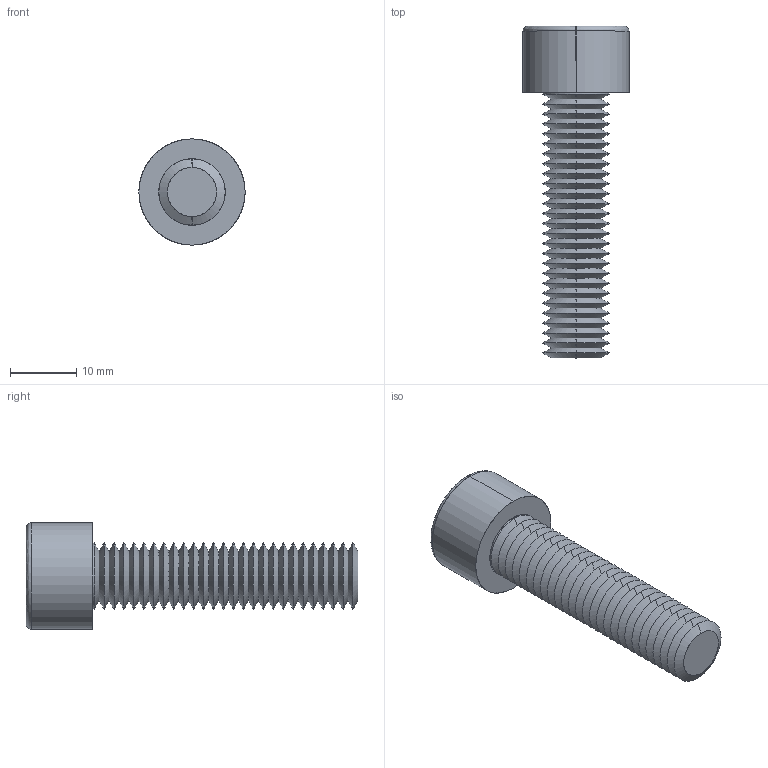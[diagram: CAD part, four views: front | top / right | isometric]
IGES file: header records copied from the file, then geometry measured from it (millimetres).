
Start section: SolidWorks IGES file using analytic representation for surfaces
Global section: file name: C:\Users\ianosborn\Desktop\N0007.91N_v2\N0007.91N_v2_20250519_IGES\91N.100.0400.igs; native system: SolidWorks 2019; preprocessor: SolidWorks 2019; author: IanOsborn; date: 250520.095530; units: millimetre
Bounding box: 16 x 50 x 16 mm (x, y, z)
Surface area: 3260.7 mm2 (no closed solid volume)
Topology: 0 solids, 0 shells, 136 faces, 765 edges, 763 vertices
Faces by surface type: revolution 119, bspline 17
